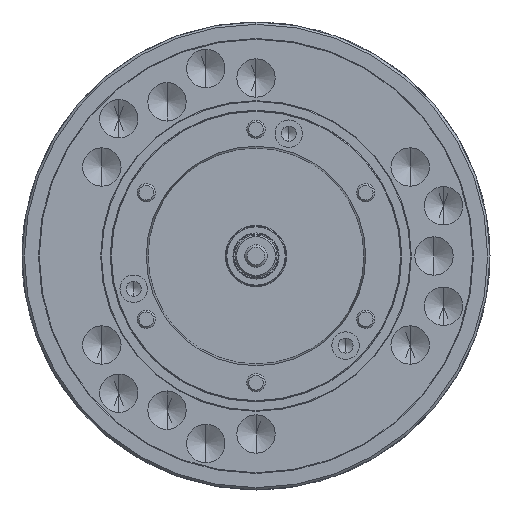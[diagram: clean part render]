
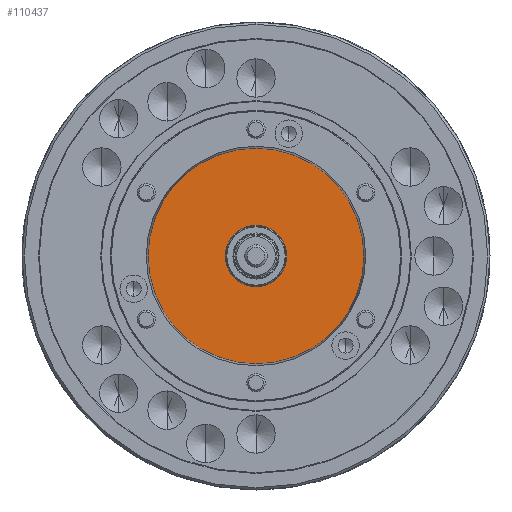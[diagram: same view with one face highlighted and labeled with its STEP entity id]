
A CAD part, left-side view. The second image highlights one B-rep face of the part: STEP entity #110437.
In plain terms, the highlighted planar face has unit normal (-1, 0, 0) as drawn and (0, 0, -1) by its records, which use the part's own axes.
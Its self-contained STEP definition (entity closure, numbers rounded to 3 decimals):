
#4244 = CARTESIAN_POINT ( 'NONE',  ( 140.7, 0., -145. ) ) ;
#5870 = CIRCLE ( 'NONE', #76968, 140.7 ) ;
#7484 = AXIS2_PLACEMENT_3D ( 'NONE', #20822, #82193, #29625 ) ;
#15000 = FACE_OUTER_BOUND ( 'NONE', #29982, .T. ) ;
#17548 = CARTESIAN_POINT ( 'NONE',  ( 0., 0., -145. ) ) ;
#20822 = CARTESIAN_POINT ( 'NONE',  ( 0., 0., -145. ) ) ;
#21341 = EDGE_CURVE ( 'NONE', #79341, #34910, #5870, .T. ) ;
#22282 = VERTEX_POINT ( 'NONE', #30605 ) ;
#26242 = CARTESIAN_POINT ( 'NONE',  ( 0., -140.7, -145. ) ) ;
#26354 = DIRECTION ( 'NONE',  ( 1., 0., 0. ) ) ;
#29594 = CARTESIAN_POINT ( 'NONE',  ( 40., 0., -145. ) ) ;
#29625 = DIRECTION ( 'NONE',  ( 1., 0., 0. ) ) ;
#29982 = EDGE_LOOP ( 'NONE', ( #105248, #112234 ) ) ;
#30605 = CARTESIAN_POINT ( 'NONE',  ( -40., 0., -145. ) ) ;
#30618 = CIRCLE ( 'NONE', #7484, 40. ) ;
#34910 = VERTEX_POINT ( 'NONE', #4244 ) ;
#38657 = DIRECTION ( 'NONE',  ( 0., 0., 1. ) ) ;
#43449 = CARTESIAN_POINT ( 'NONE',  ( -140.7, 0., -145. ) ) ;
#43740 = CARTESIAN_POINT ( 'NONE',  ( 0., 0., -145. ) ) ;
#43894 = DIRECTION ( 'NONE',  ( 1., 0., 0. ) ) ;
#52468 = EDGE_CURVE ( 'NONE', #34910, #79341, #97311, .T. ) ;
#52579 = DIRECTION ( 'NONE',  ( 1., 0., 0. ) ) ;
#52806 = AXIS2_PLACEMENT_3D ( 'NONE', #43740, #105159, #52579 ) ;
#64427 = EDGE_CURVE ( 'NONE', #22282, #97880, #30618, .T. ) ;
#69928 = CIRCLE ( 'NONE', #72334, 40. ) ;
#71969 = ORIENTED_EDGE ( 'NONE', *, *, #98433, .T. ) ;
#72334 = AXIS2_PLACEMENT_3D ( 'NONE', #91276, #38657, #100110 ) ;
#76968 = AXIS2_PLACEMENT_3D ( 'NONE', #17548, #78937, #26354 ) ;
#78824 = PLANE ( 'NONE',  #79860 ) ;
#78937 = DIRECTION ( 'NONE',  ( 0., 0., 1. ) ) ;
#79341 = VERTEX_POINT ( 'NONE', #43449 ) ;
#79860 = AXIS2_PLACEMENT_3D ( 'NONE', #26242, #96483, #43894 ) ;
#82193 = DIRECTION ( 'NONE',  ( 0., 0., 1. ) ) ;
#82974 = EDGE_LOOP ( 'NONE', ( #71969, #103703 ) ) ;
#91276 = CARTESIAN_POINT ( 'NONE',  ( 0., 0., -145. ) ) ;
#96483 = DIRECTION ( 'NONE',  ( 0., 0., 1. ) ) ;
#97311 = CIRCLE ( 'NONE', #52806, 140.7 ) ;
#97880 = VERTEX_POINT ( 'NONE', #29594 ) ;
#98433 = EDGE_CURVE ( 'NONE', #97880, #22282, #69928, .T. ) ;
#100110 = DIRECTION ( 'NONE',  ( 1., 0., 0. ) ) ;
#103703 = ORIENTED_EDGE ( 'NONE', *, *, #64427, .T. ) ;
#105159 = DIRECTION ( 'NONE',  ( 0., 0., 1. ) ) ;
#105248 = ORIENTED_EDGE ( 'NONE', *, *, #52468, .F. ) ;
#105633 = FACE_BOUND ( 'NONE', #82974, .T. ) ;
#110437 = ADVANCED_FACE ( 'NONE', ( #15000, #105633 ), #78824, .F. ) ;
#112234 = ORIENTED_EDGE ( 'NONE', *, *, #21341, .F. ) ;
